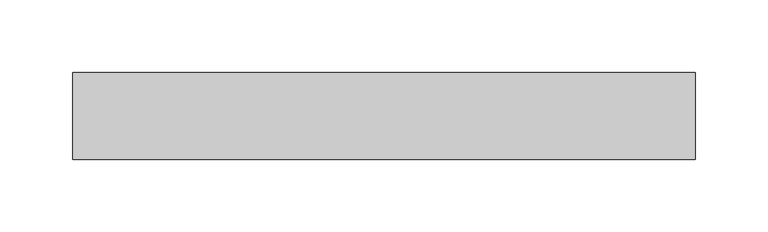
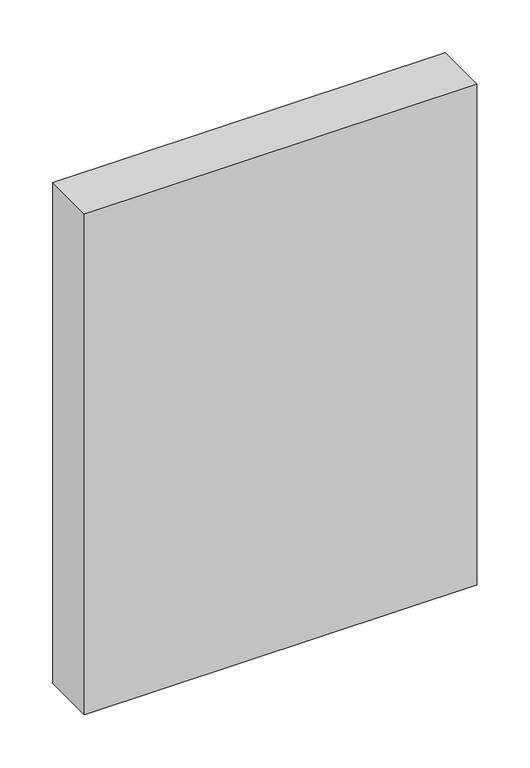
"""IFC4 building model written with IfcOpenShell, lengths in millimetres: plate geometry, Системная панель : Алюкобонд серый."""

from ifc_helpers import new_model, si_unit, origin, origin_with_axes, place, context, project, spatial, polyline, outline, extrude, source, transform, mapped, element, save


def plate_cd8df048(model_context):
    return source(origin(), model_context, "Body", "SweptSolid", [
        extrude(outline(polyline([(214.7683344, -10.5), (-214.7683344, -10.5), (-214.7683344, 49.5), (214.7683344, 49.5), (214.7683344, -10.5)])), origin_with_axes(), (0.0, 0.0, 1.0), 580.0),
    ])


if __name__ == "__main__":
    model = new_model("IFC4")
    model_context = context("Model", 3, world=origin())
    ifc_project = project(units=[si_unit("LENGTHUNIT", "METRE", prefix="MILLI")], contexts=[model_context])
    site = spatial("IfcSite", under=ifc_project)
    building = spatial("IfcBuilding", under=site)
    placement = place(None, origin())
    plate_shape = plate_cd8df048(model_context)
    element("IfcPlate", 1, ObjectType="Системная панель : Алюкобонд серый", at=placement, inside=building, context=model_context, shape_type="MappedRepresentation", body=[
        mapped(plate_shape, transform((0.0, 0.0, 0.0), x_axis=(1.0, 0.0, 0.0), y_axis=(0.0, 1.0, 0.0), z_axis=(0.0, 0.0, 1.0))),
    ])
    save(model, "model.ifc")
